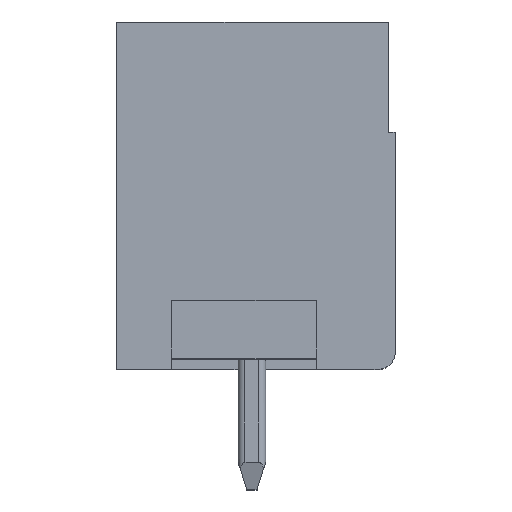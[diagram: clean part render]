
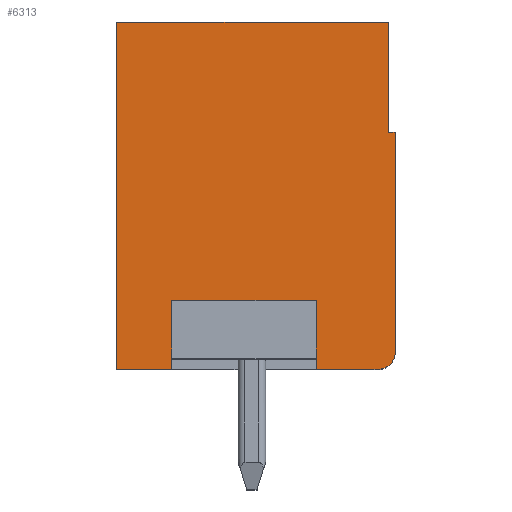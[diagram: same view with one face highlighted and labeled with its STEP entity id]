
A CAD part, top view. The second image highlights one B-rep face of the part: STEP entity #6313.
In plain terms, the highlighted planar face has unit normal (0, 0, 1).
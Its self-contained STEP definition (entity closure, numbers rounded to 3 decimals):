
#325=DIRECTION('',(0.,1.,0.));
#326=VECTOR('',#325,6.4);
#327=CARTESIAN_POINT('',(8.1,0.5,4.7));
#328=LINE('',#327,#326);
#329=CARTESIAN_POINT('',(7.6,0.5,4.7));
#330=DIRECTION('',(0.,0.,1.));
#331=DIRECTION('',(0.,-1.,0.));
#332=AXIS2_PLACEMENT_3D('',#329,#330,#331);
#334=DIRECTION('',(1.,0.,0.));
#335=VECTOR('',#334,1.8);
#336=CARTESIAN_POINT('',(5.8,0.,4.7));
#337=LINE('',#336,#335);
#338=DIRECTION('',(0.,-1.,0.));
#339=VECTOR('',#338,10.1);
#340=CARTESIAN_POINT('',(0.,10.1,4.7));
#341=LINE('',#340,#339);
#342=DIRECTION('',(-1.,0.,0.));
#343=VECTOR('',#342,7.9);
#344=CARTESIAN_POINT('',(7.9,10.1,4.7));
#345=LINE('',#344,#343);
#346=DIRECTION('',(0.,1.,0.));
#347=VECTOR('',#346,3.2);
#348=CARTESIAN_POINT('',(7.9,6.9,4.7));
#349=LINE('',#348,#347);
#350=DIRECTION('',(-1.,0.,0.));
#351=VECTOR('',#350,0.2);
#352=CARTESIAN_POINT('',(8.1,6.9,4.7));
#353=LINE('',#352,#351);
#358=DIRECTION('',(0.,1.,0.));
#359=VECTOR('',#358,2.);
#360=CARTESIAN_POINT('',(5.8,0.,4.7));
#361=LINE('',#360,#359);
#721=DIRECTION('',(-1.,0.,0.));
#722=VECTOR('',#721,1.6);
#723=CARTESIAN_POINT('',(1.6,0.,4.7));
#724=LINE('',#723,#722);
#737=DIRECTION('',(0.,-1.,0.));
#738=VECTOR('',#737,2.);
#739=CARTESIAN_POINT('',(1.6,2.,4.7));
#740=LINE('',#739,#738);
#749=DIRECTION('',(-1.,0.,0.));
#750=VECTOR('',#749,4.2);
#751=CARTESIAN_POINT('',(5.8,2.,4.7));
#752=LINE('',#751,#750);
#4941=CARTESIAN_POINT('',(8.1,0.5,4.7));
#4942=CARTESIAN_POINT('',(8.1,6.9,4.7));
#4943=VERTEX_POINT('',#4941);
#4944=VERTEX_POINT('',#4942);
#4949=CARTESIAN_POINT('',(5.8,0.,4.7));
#4950=VERTEX_POINT('',#4949);
#4951=CARTESIAN_POINT('',(7.6,0.,4.7));
#4952=VERTEX_POINT('',#4951);
#4961=CARTESIAN_POINT('',(0.,10.1,4.7));
#4962=CARTESIAN_POINT('',(0.,0.,4.7));
#4963=VERTEX_POINT('',#4961);
#4964=VERTEX_POINT('',#4962);
#4987=CARTESIAN_POINT('',(7.9,10.1,4.7));
#4988=VERTEX_POINT('',#4987);
#5013=CARTESIAN_POINT('',(7.9,6.9,4.7));
#5014=VERTEX_POINT('',#5013);
#5015=CARTESIAN_POINT('',(5.8,2.,4.7));
#5016=VERTEX_POINT('',#5015);
#5017=CARTESIAN_POINT('',(1.6,2.,4.7));
#5018=VERTEX_POINT('',#5017);
#5019=CARTESIAN_POINT('',(1.6,0.,4.7));
#5020=VERTEX_POINT('',#5019);
#6291=CARTESIAN_POINT('',(0.,0.,4.7));
#6292=DIRECTION('',(0.,0.,1.));
#6293=DIRECTION('',(1.,0.,0.));
#6294=AXIS2_PLACEMENT_3D('',#6291,#6292,#6293);
#6295=PLANE('',#6294);
#6296=ORIENTED_EDGE('',*,*,#5858,.F.);
#6297=ORIENTED_EDGE('',*,*,#5873,.F.);
#6298=ORIENTED_EDGE('',*,*,#5892,.F.);
#6300=ORIENTED_EDGE('',*,*,#6299,.T.);
#6302=ORIENTED_EDGE('',*,*,#6301,.T.);
#6304=ORIENTED_EDGE('',*,*,#6303,.T.);
#6306=ORIENTED_EDGE('',*,*,#6305,.T.);
#6307=ORIENTED_EDGE('',*,*,#6152,.F.);
#6308=ORIENTED_EDGE('',*,*,#5751,.F.);
#6309=ORIENTED_EDGE('',*,*,#5828,.F.);
#6310=ORIENTED_EDGE('',*,*,#5843,.F.);
#6311=EDGE_LOOP('',(#6296,#6297,#6298,#6300,#6302,#6304,#6306,#6307,#6308,#6309,
#6310));
#6312=FACE_OUTER_BOUND('',#6311,.F.);
#6313=ADVANCED_FACE('',(#6312),#6295,.T.);
#333=CIRCLE('',#332,0.5);
#5751=EDGE_CURVE('',#4988,#4963,#345,.T.);
#5828=EDGE_CURVE('',#5014,#4988,#349,.T.);
#5843=EDGE_CURVE('',#4944,#5014,#353,.T.);
#5858=EDGE_CURVE('',#4943,#4944,#328,.T.);
#5873=EDGE_CURVE('',#4952,#4943,#333,.T.);
#5892=EDGE_CURVE('',#4950,#4952,#337,.T.);
#6152=EDGE_CURVE('',#4963,#4964,#341,.T.);
#6299=EDGE_CURVE('',#4950,#5016,#361,.T.);
#6301=EDGE_CURVE('',#5016,#5018,#752,.T.);
#6303=EDGE_CURVE('',#5018,#5020,#740,.T.);
#6305=EDGE_CURVE('',#5020,#4964,#724,.T.);
